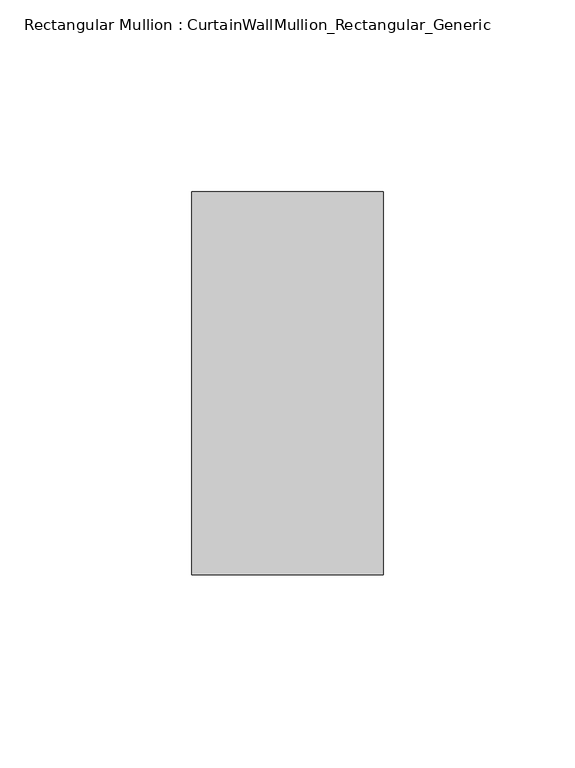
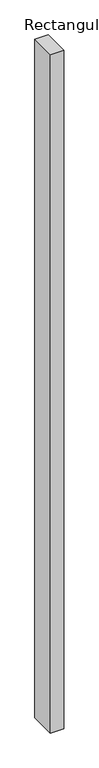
"""IFC4 building model written with IfcOpenShell, lengths in millimetres: member geometry, Rectangular Mullion : CurtainWallMullion_Rectangular_Generic."""

from ifc_helpers import new_model, si_unit, frame, origin, place, context, project, spatial, polyline, outline, extrude, source, transform, mapped, element, save


def rectangular_mullion_curtainwallmullion_rectangular_generic_aee1ee25(model_context):
    return source(origin(), model_context, "Body", "SweptSolid", [
        extrude(outline(polyline([(0.0, 50.0), (0.0, -50.0), (-50.0, -50.0), (-50.0, 50.0), (0.0, 50.0)])), frame((0.0, 0.0, -2677.0000001), z_axis=(0.0, 0.0, 1.0), x_axis=(1.0, 0.0, 0.0)), (0.0, 0.0, 1.0), 2677.0000001),
    ])


if __name__ == "__main__":
    model = new_model("IFC4")
    model_context = context("Model", 3, world=origin())
    ifc_project = project(units=[si_unit("LENGTHUNIT", "METRE", prefix="MILLI")], contexts=[model_context])
    site = spatial("IfcSite", under=ifc_project)
    building = spatial("IfcBuilding", under=site)
    placement = place(None, origin())
    rectangular_mullion_curtainwallmullion_rectangular_generic_shape = rectangular_mullion_curtainwallmullion_rectangular_generic_aee1ee25(model_context)
    element("IfcMember", 1, ObjectType="Rectangular Mullion : CurtainWallMullion_Rectangular_Generic", at=placement, inside=building, context=model_context, shape_type="MappedRepresentation", body=[
        mapped(rectangular_mullion_curtainwallmullion_rectangular_generic_shape, transform((0.0, 0.0, 0.0), x_axis=(1.0, 0.0, 0.0), y_axis=(0.0, 1.0, 0.0), z_axis=(0.0, 0.0, 1.0))),
    ])
    save(model, "model.ifc")
